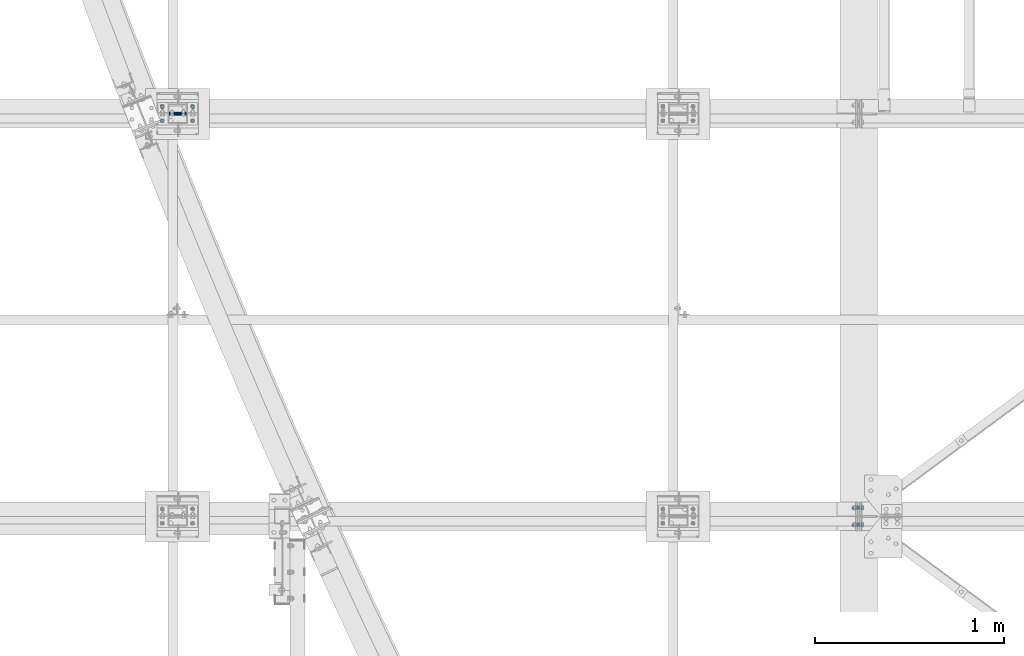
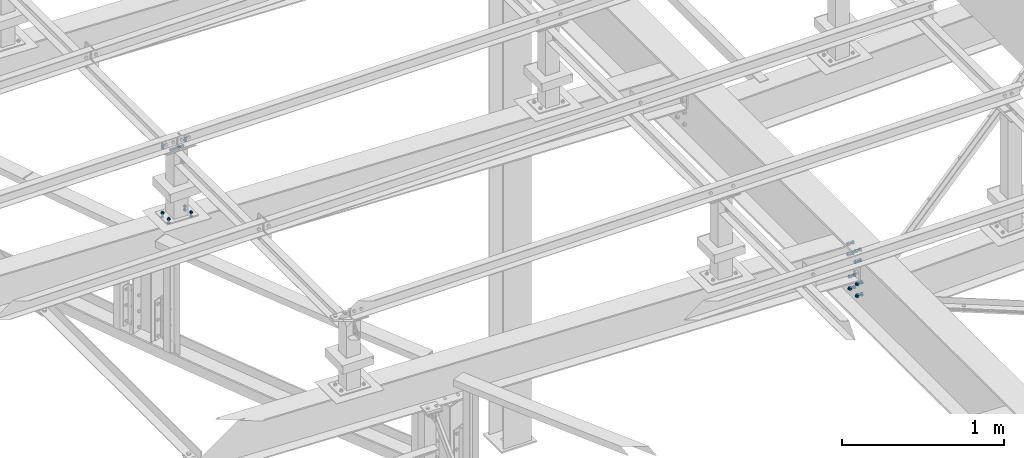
# One storey, part 52 of 3134: 7 mechanical fasteners, 3 elements without a shape of their own.
"""IFC2X3 building model written with IfcOpenShell, lengths in millimetres."""

import ifcopenshell
import ifcopenshell.guid

model = None  # the IFC model being written
_history = None  # IfcOwnerHistory: only IFC2X3 demands one
_inside = {}  # id of a spatial element -> (the spatial element, [elements in it])
_under = {}  # id of a project, library or spatial element -> (it, [spatial elements below it])
_declared = {}  # id of a project -> (the project, [libraries it declares])
_typed = {}  # id of a type object -> (the type object, [elements of that type])
_made_of = {}  # id of a material, layer set ... -> (it, [elements and type objects made of it])


def new_model(schema):
    """Start an empty IFC model of exactly this schema.

    Asked for "IFC4X3", IfcOpenShell would pick the latest addendum, in which some entities
    have other attributes; the version numbers below select the first issue.
    IFC2X3 requires an IfcOwnerHistory on every rooted entity: one is made here for all.
    """
    global model, _history
    if schema == "IFC4X3":
        model = ifcopenshell.file(schema_version=(4, 3, 0, 0))
    else:
        model = ifcopenshell.file(schema=schema)
    _inside.clear()
    _under.clear()
    _declared.clear()
    _typed.clear()
    _made_of.clear()
    _history = None
    if model.schema == "IFC2X3":
        org = make("IfcOrganization", Name="unknown")
        user = make(
            "IfcPersonAndOrganization",
            ThePerson=make("IfcPerson", FamilyName="unknown"),
            TheOrganization=org,
        )
        app = make(
            "IfcApplication",
            ApplicationDeveloper=org,
            Version="unknown",
            ApplicationFullName="unknown",
            ApplicationIdentifier="unknown",
        )
        _history = make(
            "IfcOwnerHistory",
            OwningUser=user,
            OwningApplication=app,
            ChangeAction="ADDED",
            CreationDate=0,
        )
    return model


def make(cls, **values):
    """One entity of the class cls with the attributes given. An attribute that is None is left unset."""
    return model.create_entity(
        cls, **{name: value for name, value in values.items() if value is not None}
    )


def rooted(cls, **values):
    """An entity with a GlobalId (a new one), such as an element, a storey or a relation."""
    return make(cls, GlobalId=ifcopenshell.guid.new(), OwnerHistory=_history, **values)


def si_unit(unit_type, name, prefix=None):
    """IfcSIUnit, for example si_unit("LENGTHUNIT", "METRE", prefix="MILLI")."""
    return make("IfcSIUnit", UnitType=unit_type, Prefix=prefix, Name=name)


def assignment(units):
    """IfcUnitAssignment: the units of a project."""
    return None if units is None else make("IfcUnitAssignment", Units=units)


def point(xyz):
    """IfcCartesianPoint."""
    return None if xyz is None else make("IfcCartesianPoint", Coordinates=xyz)


def direction(xyz):
    """IfcDirection."""
    return None if xyz is None else make("IfcDirection", DirectionRatios=xyz)


def frame(location, z_axis=None, x_axis=None):
    """IfcAxis2Placement3D, a coordinate frame: its origin and axes. An axis left out is left unset."""
    return make(
        "IfcAxis2Placement3D",
        Location=point(location),
        Axis=direction(z_axis),
        RefDirection=direction(x_axis),
    )


def origin_with_axes():
    """The frame at (0, 0, 0) with the z axis (0, 0, 1) and the x axis (1, 0, 0) written out."""
    return frame((0.0, 0.0, 0.0), z_axis=(0.0, 0.0, 1.0), x_axis=(1.0, 0.0, 0.0))


def place(relative_to, where):
    """IfcLocalPlacement: puts the frame where relative to a parent placement (None: the world)."""
    return make(
        "IfcLocalPlacement", PlacementRelTo=relative_to, RelativePlacement=where
    )


def context(
    kind, dimensions, precision=None, world=None, true_north=None, identifier=None
):
    """IfcGeometricRepresentationContext, for example the 3D "Model" context."""
    return make(
        "IfcGeometricRepresentationContext",
        ContextIdentifier=identifier,
        ContextType=kind,
        CoordinateSpaceDimension=dimensions,
        Precision=precision,
        WorldCoordinateSystem=world,
        TrueNorth=true_north,
    )


def subcontext(parent, identifier, kind, view, scale=None):
    """IfcGeometricRepresentationSubContext, for example "Body" below "Model"."""
    return make(
        "IfcGeometricRepresentationSubContext",
        ContextIdentifier=identifier,
        ContextType=kind,
        ParentContext=parent,
        TargetScale=scale,
        TargetView=view,
    )


def project(units=None, contexts=None):
    """IfcProject with its units and contexts."""
    return rooted(
        "IfcProject",
        Name="project",
        RepresentationContexts=contexts,
        UnitsInContext=assignment(units),
    )


def spatial(cls, under=None, at=None, **own):
    """A site, building, storey or space (cls), placed at a placement, below another one or the project."""
    s = rooted(cls, ObjectPlacement=at, **own)
    if under is not None:
        _under.setdefault(under.id(), (under, []))[1].append(s)
    return s


def faces_of(points, faces, orient=None, outer=None):
    """IfcFace entities. A face is a list of loops; a loop is a list of indices into points, from 0.

    orient and outer hold one flag for each loop. By default every Orientation is true, the
    first loop of a face is its IfcFaceOuterBound and the others are IfcFaceBound.
    """
    made = []
    for i, loops in enumerate(faces):
        bounds = []
        for j, loop in enumerate(loops):
            is_outer = j == 0 if outer is None else outer[i][j]
            bounds.append(
                make(
                    "IfcFaceOuterBound" if is_outer else "IfcFaceBound",
                    Bound=make("IfcPolyLoop", Polygon=[points[k] for k in loop]),
                    Orientation=True if orient is None else orient[i][j],
                )
            )
        made.append(make("IfcFace", Bounds=bounds))
    return made


def faceted_brep(points, faces, orient=None, outer=None, voids=None):
    """IfcFacetedBrep: a solid bounded by flat faces; with voids (closed shells), ...WithVoids."""
    shared = [point(p) for p in points]
    hull = make("IfcClosedShell", CfsFaces=faces_of(shared, faces, orient, outer))
    if voids is None:
        return make("IfcFacetedBrep", Outer=hull)
    return make(
        "IfcFacetedBrepWithVoids",
        Outer=hull,
        Voids=[
            make(cls, CfsFaces=faces_of(shared, fs, o, b)) for cls, fs, o, b in voids
        ],
    )


def shape(context_of_items, identifier, shape_type, items):
    """IfcShapeRepresentation: the items that make up one representation, for example the "Body"."""
    return make(
        "IfcShapeRepresentation",
        ContextOfItems=context_of_items,
        RepresentationIdentifier=identifier,
        RepresentationType=shape_type,
        Items=items,
    )


def source(mapping_origin, context_of_items, identifier, shape_type, items):
    """IfcRepresentationMap: a shape defined once, which mapped items show again and again."""
    return make(
        "IfcRepresentationMap",
        MappingOrigin=mapping_origin,
        MappedRepresentation=shape(context_of_items, identifier, shape_type, items),
    )


def transform(
    local_origin,
    x_axis=None,
    y_axis=None,
    z_axis=None,
    scale=None,
    scale2=None,
    scale3=None,
    uniform=True,
):
    """IfcCartesianTransformationOperator3D, or its non-uniform kind. x_axis, y_axis, z_axis: its Axis1, 2, 3."""
    if uniform:
        return make(
            "IfcCartesianTransformationOperator3D",
            Axis1=direction(x_axis),
            Axis2=direction(y_axis),
            LocalOrigin=point(local_origin),
            Scale=scale,
            Axis3=direction(z_axis),
        )
    return make(
        "IfcCartesianTransformationOperator3DnonUniform",
        Axis1=direction(x_axis),
        Axis2=direction(y_axis),
        LocalOrigin=point(local_origin),
        Scale=scale,
        Axis3=direction(z_axis),
        Scale2=scale2,
        Scale3=scale3,
    )


def mapped(mapping_source, mapping_target):
    """IfcMappedItem: shows the shape of a source again, moved by a transform."""
    return make(
        "IfcMappedItem", MappingSource=mapping_source, MappingTarget=mapping_target
    )


def material(Name=None, Category=None):
    """IfcMaterial."""
    return make("IfcMaterial", Name=Name, Category=Category)


def made_of(thing, what):
    """Note that an element or type object is made of a material, layer set ...; save() writes the relation."""
    if what is not None:
        _made_of.setdefault(what.id(), (what, []))[1].append(thing)
    return thing


def type_object(cls, material=None, **own):
    """A type object (cls), such as IfcWallType, which elements share."""
    return made_of(rooted(cls, **own), material)


def element(
    cls,
    number,
    at=None,
    inside=None,
    cuts=None,
    type_object=None,
    material=None,
    context=None,
    identifier="Body",
    shape_type=None,
    held_by="IfcProductDefinitionShape",
    body=None,
    shapes=None,
    **own,
):
    """One element of the class cls, such as IfcWall. Its Tag is "e" and its number.

    at: its placement. inside: the storey or other place that contains it. cuts: it is an
    opening in that element (IfcRelVoidsElement). A single representation is given by context,
    identifier, shape_type and body (its items); several are given by shapes. held_by: the class
    of the entity that holds the representations. save() writes the other relations.
    """
    e = rooted(cls, Tag="e%d" % number, ObjectPlacement=at, **own)
    if body is not None:
        shapes = [shape(context, identifier, shape_type, body)]
    if shapes is not None:
        e.Representation = make(held_by, Representations=shapes)
    if inside is not None:
        _inside.setdefault(inside.id(), (inside, []))[1].append(e)
    if cuts is not None:
        rooted(
            "IfcRelVoidsElement", RelatingBuildingElement=cuts, RelatedOpeningElement=e
        )
    if type_object is not None:
        _typed.setdefault(type_object.id(), (type_object, []))[1].append(e)
    return made_of(e, material)


def aggregate(whole, parts):
    """IfcRelAggregates: a whole, such as a stair, and the parts it consists of."""
    return rooted("IfcRelAggregates", RelatingObject=whole, RelatedObjects=parts)


def save(model, path):
    """Write the relations noted so far, then the file.

    IfcRelAggregates (storeys below a building ...), IfcRelContainedInSpatialStructure (elements
    in a storey), IfcRelDefinesByType, IfcRelAssociatesMaterial and IfcRelDeclares: one each for
    every whole, place, type object, material and project.
    """
    for whole, parts in _under.values():
        aggregate(whole, parts)
    for where, things in _inside.values():
        rooted(
            "IfcRelContainedInSpatialStructure",
            RelatedElements=things,
            RelatingStructure=where,
        )
    for kind, things in _typed.values():
        rooted("IfcRelDefinesByType", RelatedObjects=things, RelatingType=kind)
    for what, things in _made_of.values():
        rooted("IfcRelAssociatesMaterial", RelatedObjects=things, RelatingMaterial=what)
    for by, libraries in _declared.values():
        rooted("IfcRelDeclares", RelatingContext=by, RelatedDefinitions=libraries)
    model.write(path)


model = new_model("IFC2X3")

# Units and contexts
model_context = context("Model", 3, precision=1e-05, world=origin_with_axes())
body_context = subcontext(model_context, "Body", "Model", "MODEL_VIEW")
ifc_project = project(units=[si_unit("LENGTHUNIT", "METRE", prefix="MILLI"), si_unit("AREAUNIT", "SQUARE_METRE"), si_unit("VOLUMEUNIT", "CUBIC_METRE"), si_unit("MASSUNIT", "GRAM", prefix="KILO"), si_unit("TIMEUNIT", "SECOND"), si_unit("PLANEANGLEUNIT", "RADIAN"), si_unit("SOLIDANGLEUNIT", "STERADIAN"), si_unit("THERMODYNAMICTEMPERATUREUNIT", "DEGREE_CELSIUS"), si_unit("LUMINOUSINTENSITYUNIT", "LUMEN")], contexts=[model_context])

# Site, building, storey
site_placement = place(None, origin_with_axes())
site = spatial("IfcSite", under=ifc_project, at=site_placement, CompositionType="ELEMENT")
building_placement = place(site_placement, origin_with_axes())
building = spatial("IfcBuilding", under=site, at=building_placement, Name="Undefined", CompositionType="ELEMENT")
storey_placement = place(building_placement, origin_with_axes())
storey = spatial("IfcBuildingStorey", under=building, at=storey_placement, Name="Undefined", CompositionType="ELEMENT", Elevation=0.0)

# Assembly, mechanical fastener
assembly_1_placement = place(storey_placement, origin_with_axes())
assembly_1 = element("IfcElementAssembly", 1, at=assembly_1_placement, inside=storey, AssemblyPlace="NOTDEFINED", PredefinedType="RIGID_FRAME")
ifc_material = material(Name="8.8")
mechanical_fastener_type = type_object("IfcMechanicalFastenerType", Name="Bolt assembly")
shared_shape_1 = source(origin_with_axes(), body_context, "Body", "Brep", [
    faceted_brep([(10.9696551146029, -14.0, 0.0), (5.48482755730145, -14.0, 9.5), (-5.48482755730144, -14.0, 9.5), (-10.9696551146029, -14.0, 1.34339530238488e-15), (-5.48482755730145, -14.0, -9.5), (5.48482755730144, -14.0, -9.50000000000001), (5.48482755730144, -6.0, -9.50000000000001), (-5.48482755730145, -6.0, -9.5), (-10.9696551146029, -6.0, 1.34339530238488e-15), (-5.48482755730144, -6.0, 9.5), (5.48482755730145, -6.0, 9.5), (10.9696551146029, -6.0, 0.0), (6.0, -6.0, 0.0), (5.19615242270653, -6.0, 3.00000000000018), (2.99999999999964, -6.0, 5.19615242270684), (-6.21801588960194e-13, -6.0, 6.0), (-3.00000000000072, -6.0, 5.19615242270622), (-5.19615242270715, -6.0, 2.9999999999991), (-6.0, -6.0, -1.24360317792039e-12), (-5.19615242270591, -6.0, -3.00000000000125), (-2.99999999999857, -6.0, -5.19615242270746), (1.85874342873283e-12, -6.0, -6.0), (3.00000000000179, -6.0, -5.1961524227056), (5.19615242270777, -6.0, -2.99999999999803), (5.19615242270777, 24.0, -2.99999999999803), (3.00000000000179, 24.0, -5.1961524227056), (1.85874342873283e-12, 24.0, -6.0), (-2.99999999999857, 24.0, -5.19615242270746), (-5.19615242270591, 24.0, -3.00000000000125), (-6.0, 24.0, -1.24360317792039e-12), (-5.19615242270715, 24.0, 2.9999999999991), (-3.00000000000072, 24.0, 5.19615242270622), (-6.21801588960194e-13, 24.0, 6.0), (2.99999999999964, 24.0, 5.19615242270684), (5.19615242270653, 24.0, 3.00000000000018), (6.0, 24.0, 0.0), (10.9696551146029, 6.00000000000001, 0.0), (5.48482755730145, 6.00000000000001, 9.5), (-5.48482755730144, 6.00000000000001, 9.5), (-10.9696551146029, 6.00000000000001, 1.34339530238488e-15), (-5.48482755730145, 6.00000000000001, -9.5), (5.48482755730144, 6.00000000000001, -9.50000000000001), (5.48482755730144, 16.0, -9.50000000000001), (-5.48482755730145, 16.0, -9.5), (-10.9696551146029, 16.0, 1.34339530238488e-15), (-5.48482755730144, 16.0, 9.5), (5.48482755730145, 16.0, 9.5), (10.9696551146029, 16.0, 0.0)], [[[0, 1, 2, 3, 4, 5]], [[6, 7, 8, 9, 10, 11]], [[0, 11, 10, 1]], [[1, 10, 9, 2]], [[2, 9, 8, 3]], [[3, 8, 7, 4]], [[4, 7, 6, 5]], [[5, 6, 11, 0]], [[12, 13, 14, 15, 16, 17, 18, 19, 20, 21, 22, 23]], [[24, 25, 26, 27, 28, 29, 30, 31, 32, 33, 34, 35]], [[12, 35, 34, 13]], [[13, 34, 33, 14]], [[14, 33, 32, 15]], [[15, 32, 31, 16]], [[16, 31, 30, 17]], [[17, 30, 29, 18]], [[18, 29, 28, 19]], [[19, 28, 27, 20]], [[20, 27, 26, 21]], [[21, 26, 25, 22]], [[22, 25, 24, 23]], [[23, 24, 35, 12]], [[36, 37, 38, 39, 40, 41]], [[42, 43, 44, 45, 46, 47]], [[36, 47, 46, 37]], [[37, 46, 45, 38]], [[38, 45, 44, 39]], [[39, 44, 43, 40]], [[40, 43, 42, 41]], [[41, 42, 47, 36]]]),
    faceted_brep([(7.0, -0.1, 0.0), (6.06217782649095, -0.1, 3.50000000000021), (3.49999999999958, -0.1, 6.06217782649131), (-7.25435187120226e-13, -0.1, 7.0), (-3.50000000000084, -0.1, 6.06217782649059), (-6.06217782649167, -0.1, 3.49999999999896), (-7.0, -0.1, -1.45087037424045e-12), (-6.06217782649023, -0.1, -3.50000000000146), (-3.49999999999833, -0.1, -6.06217782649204), (2.1685340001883e-12, -0.1, -7.0), (3.50000000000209, -0.1, -6.06217782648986), (6.0621778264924, -0.1, -3.4999999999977), (6.0621778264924, 6.00000000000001, -3.4999999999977), (3.50000000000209, 6.00000000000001, -6.06217782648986), (2.1685340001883e-12, 6.00000000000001, -7.0), (-3.49999999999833, 6.00000000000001, -6.06217782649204), (-6.06217782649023, 6.00000000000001, -3.50000000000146), (-7.0, 6.00000000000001, -1.45087037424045e-12), (-6.06217782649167, 6.00000000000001, 3.49999999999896), (-3.50000000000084, 6.00000000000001, 6.06217782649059), (-7.25435187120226e-13, 6.00000000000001, 7.0), (3.49999999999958, 6.00000000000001, 6.06217782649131), (6.06217782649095, 6.00000000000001, 3.50000000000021), (7.0, 6.00000000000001, 0.0), (7.0, -5.9, 0.0), (6.06217782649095, -5.9, 3.50000000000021), (3.49999999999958, -5.9, 6.06217782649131), (-7.25435187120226e-13, -5.9, 7.0), (-3.50000000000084, -5.9, 6.06217782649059), (-6.06217782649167, -5.9, 3.49999999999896), (-7.0, -5.9, -1.45087037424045e-12), (-6.06217782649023, -5.9, -3.50000000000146), (-3.49999999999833, -5.9, -6.06217782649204), (2.1685340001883e-12, -5.9, -7.0), (3.50000000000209, -5.9, -6.06217782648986), (6.0621778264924, -5.9, -3.4999999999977), (6.0621778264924, 0.0999999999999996, -3.4999999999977), (3.50000000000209, 0.0999999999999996, -6.06217782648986), (2.1685340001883e-12, 0.0999999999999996, -7.0), (-3.49999999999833, 0.0999999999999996, -6.06217782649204), (-6.06217782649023, 0.0999999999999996, -3.50000000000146), (-7.0, 0.0999999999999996, -1.45087037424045e-12), (-6.06217782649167, 0.0999999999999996, 3.49999999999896), (-3.50000000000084, 0.0999999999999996, 6.06217782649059), (-7.25435187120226e-13, 0.0999999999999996, 7.0), (3.49999999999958, 0.0999999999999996, 6.06217782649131), (6.06217782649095, 0.0999999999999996, 3.50000000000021), (7.0, 0.0999999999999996, 0.0)], [[[0, 1, 2, 3, 4, 5, 6, 7, 8, 9, 10, 11]], [[12, 13, 14, 15, 16, 17, 18, 19, 20, 21, 22, 23]], [[0, 23, 22, 1]], [[1, 22, 21, 2]], [[2, 21, 20, 3]], [[3, 20, 19, 4]], [[4, 19, 18, 5]], [[5, 18, 17, 6]], [[6, 17, 16, 7]], [[7, 16, 15, 8]], [[8, 15, 14, 9]], [[9, 14, 13, 10]], [[10, 13, 12, 11]], [[11, 12, 23, 0]], [[24, 25, 26, 27, 28, 29, 30, 31, 32, 33, 34, 35]], [[36, 37, 38, 39, 40, 41, 42, 43, 44, 45, 46, 47]], [[24, 47, 46, 25]], [[25, 46, 45, 26]], [[26, 45, 44, 27]], [[27, 44, 43, 28]], [[28, 43, 42, 29]], [[29, 42, 41, 30]], [[30, 41, 40, 31]], [[31, 40, 39, 32]], [[32, 39, 38, 33]], [[33, 38, 37, 34]], [[34, 37, 36, 35]], [[35, 36, 47, 24]]]),
])
mechanical_fastener_1_placement = place(assembly_1_placement, frame((5691.67, 17355.0, 4365.0), z_axis=(1.0, 0.0, 0.0), x_axis=(0.0, -1.0, 0.0)))
mechanical_fastener_1 = element("IfcMechanicalFastener", 2, at=mechanical_fastener_1_placement, type_object=mechanical_fastener_type, material=ifc_material, Name="Bolt assembly", NominalDiameter=12.0, NominalLength=30.0, context=body_context, shape_type="MappedRepresentation", body=[
    mapped(shared_shape_1, transform((0.0, -5.32963895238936e-10, -79.9999999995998))),
    mapped(shared_shape_1, transform((0.0, 5.3114490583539e-10, 79.9999999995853))),
])
aggregate(assembly_1, [mechanical_fastener_1])

# Assembly, mechanical fasteners
assembly_2_placement = place(storey_placement, origin_with_axes())
assembly_2 = element("IfcElementAssembly", 3, at=assembly_2_placement, inside=storey, Name="IPE500", AssemblyPlace="NOTDEFINED", PredefinedType="RIGID_FRAME")
shared_shape_2 = source(origin_with_axes(), body_context, "Body", "Brep", [
    faceted_brep([(13.856406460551, 0.0, 0.0), (6.92820323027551, 0.0, 12.0), (-6.92820323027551, 0.0, 12.0), (-13.856406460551, 0.0, 1.69692038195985e-15), (-6.92820323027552, 0.0, -12.0), (6.9282032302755, 0.0, -12.0), (6.9282032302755, 9.99999995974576, -12.0), (-6.92820323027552, 9.99999995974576, -12.0), (-13.856406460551, 9.99999995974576, 1.69692038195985e-15), (-6.92820323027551, 9.99999995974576, 12.0), (6.92820323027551, 9.99999995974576, 12.0), (13.856406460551, 9.99999995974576, 0.0), (8.0, 9.99999995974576, 0.0), (6.92820323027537, 9.99999995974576, 4.00000000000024), (3.99999999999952, 9.99999995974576, 6.92820323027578), (-8.29068785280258e-13, 9.99999995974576, 8.0), (-4.00000000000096, 9.99999995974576, 6.92820323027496), (-6.9282032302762, 9.99999995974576, 3.99999999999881), (-8.0, 9.99999995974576, -1.65813757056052e-12), (-6.92820323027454, 9.99999995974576, -4.00000000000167), (-3.99999999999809, 9.99999995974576, -6.92820323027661), (2.47832457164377e-12, 9.99999995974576, -8.0), (4.00000000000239, 9.99999995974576, -6.92820323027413), (6.92820323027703, 9.99999995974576, -3.99999999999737), (6.92820323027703, 49.9999999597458, -3.99999999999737), (4.00000000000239, 49.9999999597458, -6.92820323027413), (2.47832457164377e-12, 49.9999999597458, -8.0), (-3.99999999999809, 49.9999999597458, -6.92820323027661), (-6.92820323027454, 49.9999999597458, -4.00000000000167), (-8.0, 49.9999999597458, -1.65813757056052e-12), (-6.9282032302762, 49.9999999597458, 3.99999999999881), (-4.00000000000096, 49.9999999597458, 6.92820323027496), (-8.29068785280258e-13, 49.9999999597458, 8.0), (3.99999999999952, 49.9999999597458, 6.92820323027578), (6.92820323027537, 49.9999999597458, 4.00000000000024), (8.0, 49.9999999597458, 0.0), (13.856406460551, 30.1999997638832, 0.0), (6.92820323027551, 30.1999997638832, 12.0), (-6.92820323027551, 30.1999997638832, 12.0), (-13.856406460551, 30.1999997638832, 1.69692038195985e-15), (-6.92820323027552, 30.1999997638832, -12.0), (6.9282032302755, 30.1999997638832, -12.0), (6.9282032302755, 43.1999997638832, -12.0), (-6.92820323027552, 43.1999997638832, -12.0), (-13.856406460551, 43.1999997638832, 1.69692038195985e-15), (-6.92820323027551, 43.1999997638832, 12.0), (6.92820323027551, 43.1999997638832, 12.0), (13.856406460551, 43.1999997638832, 0.0)], [[[0, 1, 2, 3, 4, 5]], [[6, 7, 8, 9, 10, 11]], [[0, 11, 10, 1]], [[1, 10, 9, 2]], [[2, 9, 8, 3]], [[3, 8, 7, 4]], [[4, 7, 6, 5]], [[5, 6, 11, 0]], [[12, 13, 14, 15, 16, 17, 18, 19, 20, 21, 22, 23]], [[24, 25, 26, 27, 28, 29, 30, 31, 32, 33, 34, 35]], [[12, 35, 34, 13]], [[13, 34, 33, 14]], [[14, 33, 32, 15]], [[15, 32, 31, 16]], [[16, 31, 30, 17]], [[17, 30, 29, 18]], [[18, 29, 28, 19]], [[19, 28, 27, 20]], [[20, 27, 26, 21]], [[21, 26, 25, 22]], [[22, 25, 24, 23]], [[23, 24, 35, 12]], [[36, 37, 38, 39, 40, 41]], [[42, 43, 44, 45, 46, 47]], [[36, 47, 46, 37]], [[37, 46, 45, 38]], [[38, 45, 44, 39]], [[39, 44, 43, 40]], [[40, 43, 42, 41]], [[41, 42, 47, 36]]]),
    faceted_brep([(9.0, 20.0999997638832, 0.0), (7.79422863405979, 20.0999997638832, 4.50000000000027), (4.49999999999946, 20.0999997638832, 7.79422863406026), (-9.3270238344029e-13, 20.0999997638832, 9.0), (-4.50000000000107, 20.0999997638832, 7.79422863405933), (-7.79422863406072, 20.0999997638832, 4.49999999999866), (-9.0, 20.0999997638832, -1.86540476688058e-12), (-7.79422863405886, 20.0999997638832, -4.50000000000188), (-4.49999999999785, 20.0999997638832, -7.79422863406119), (2.78811514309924e-12, 20.0999997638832, -9.0), (4.50000000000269, 20.0999997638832, -7.7942286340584), (7.79422863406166, 20.0999997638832, -4.49999999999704), (7.79422863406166, 30.1999997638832, -4.49999999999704), (4.50000000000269, 30.1999997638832, -7.7942286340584), (2.78811514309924e-12, 30.1999997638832, -9.0), (-4.49999999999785, 30.1999997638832, -7.79422863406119), (-7.79422863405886, 30.1999997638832, -4.50000000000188), (-9.0, 30.1999997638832, -1.86540476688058e-12), (-7.79422863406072, 30.1999997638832, 4.49999999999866), (-4.50000000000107, 30.1999997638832, 7.79422863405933), (-9.3270238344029e-13, 30.1999997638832, 9.0), (4.49999999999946, 30.1999997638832, 7.79422863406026), (7.79422863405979, 30.1999997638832, 4.50000000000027), (9.0, 30.1999997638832, 0.0), (9.0, 10.1000023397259, 0.0), (7.79422863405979, 10.1000023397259, 4.50000000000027), (4.49999999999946, 10.1000023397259, 7.79422863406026), (-9.3270238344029e-13, 10.1000023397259, 9.0), (-4.50000000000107, 10.1000023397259, 7.79422863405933), (-7.79422863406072, 10.1000023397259, 4.49999999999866), (-9.0, 10.1000023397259, -1.86540476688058e-12), (-7.79422863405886, 10.1000023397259, -4.50000000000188), (-4.49999999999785, 10.1000023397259, -7.79422863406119), (2.78811514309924e-12, 10.1000023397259, -9.0), (4.50000000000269, 10.1000023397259, -7.7942286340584), (7.79422863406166, 10.1000023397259, -4.49999999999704), (7.79422863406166, 20.2999997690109, -4.49999999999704), (4.50000000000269, 20.2999997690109, -7.7942286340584), (2.78811514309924e-12, 20.2999997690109, -9.0), (-4.49999999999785, 20.2999997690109, -7.79422863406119), (-7.79422863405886, 20.2999997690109, -4.50000000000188), (-9.0, 20.2999997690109, -1.86540476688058e-12), (-7.79422863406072, 20.2999997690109, 4.49999999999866), (-4.50000000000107, 20.2999997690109, 7.79422863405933), (-9.3270238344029e-13, 20.2999997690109, 9.0), (4.49999999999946, 20.2999997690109, 7.79422863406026), (7.79422863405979, 20.2999997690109, 4.50000000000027), (9.0, 20.2999997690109, 0.0)], [[[0, 1, 2, 3, 4, 5, 6, 7, 8, 9, 10, 11]], [[12, 13, 14, 15, 16, 17, 18, 19, 20, 21, 22, 23]], [[0, 23, 22, 1]], [[1, 22, 21, 2]], [[2, 21, 20, 3]], [[3, 20, 19, 4]], [[4, 19, 18, 5]], [[5, 18, 17, 6]], [[6, 17, 16, 7]], [[7, 16, 15, 8]], [[8, 15, 14, 9]], [[9, 14, 13, 10]], [[10, 13, 12, 11]], [[11, 12, 23, 0]], [[24, 25, 26, 27, 28, 29, 30, 31, 32, 33, 34, 35]], [[36, 37, 38, 39, 40, 41, 42, 43, 44, 45, 46, 47]], [[24, 47, 46, 25]], [[25, 46, 45, 26]], [[26, 45, 44, 27]], [[27, 44, 43, 28]], [[28, 43, 42, 29]], [[29, 42, 41, 30]], [[30, 41, 40, 31]], [[31, 40, 39, 32]], [[32, 39, 38, 33]], [[33, 38, 37, 34]], [[34, 37, 36, 35]], [[35, 36, 47, 24]]]),
])
mechanical_fastener_2_placement = place(assembly_2_placement, frame((9310.09999986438, 15145.0, 3631.67000001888), z_axis=(0.0, 1.0, 0.0), x_axis=(0.0, 0.0, -1.0)))
mechanical_fastener_2 = element("IfcMechanicalFastener", 4, at=mechanical_fastener_2_placement, type_object=mechanical_fastener_type, material=ifc_material, Name="Bolt assembly", NominalDiameter=16.0, NominalLength=40.0, context=body_context, shape_type="MappedRepresentation", body=[
    mapped(shared_shape_2, transform((0.0, 0.0, 0.0))),
    mapped(shared_shape_2, transform((80.0, 0.0, 0.0))),
])
mechanical_fastener_3_placement = place(assembly_2_placement, frame((9310.09999986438, 15235.0, 3631.67000001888), z_axis=(0.0, 1.0, 0.0), x_axis=(0.0, 0.0, -1.0)))
mechanical_fastener_3 = element("IfcMechanicalFastener", 5, at=mechanical_fastener_3_placement, type_object=mechanical_fastener_type, material=ifc_material, Name="Bolt assembly", NominalDiameter=16.0, NominalLength=40.0, context=body_context, shape_type="MappedRepresentation", body=[
    mapped(shared_shape_2, transform((0.0, 0.0, 0.0))),
    mapped(shared_shape_2, transform((80.0, 0.0, 0.0))),
])
shared_shape_3 = source(origin_with_axes(), body_context, "Body", "Brep", [
    faceted_brep([(13.856406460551, -10.0, 0.0), (6.92820323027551, -10.0, 12.0), (-6.92820323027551, -10.0, 12.0), (-13.856406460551, -10.0, 1.69692038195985e-15), (-6.92820323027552, -10.0, -12.0), (6.9282032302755, -10.0, -12.0), (6.9282032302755, 0.0, -12.0), (-6.92820323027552, 0.0, -12.0), (-13.856406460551, 0.0, 1.69692038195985e-15), (-6.92820323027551, 0.0, 12.0), (6.92820323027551, 0.0, 12.0), (13.856406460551, 0.0, 0.0), (8.0, 0.0, 0.0), (6.92820323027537, 0.0, 4.00000000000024), (3.99999999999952, 0.0, 6.92820323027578), (-8.29068785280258e-13, 0.0, 8.0), (-4.00000000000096, 0.0, 6.92820323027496), (-6.9282032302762, 0.0, 3.99999999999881), (-8.0, 0.0, -1.65813757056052e-12), (-6.92820323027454, 0.0, -4.00000000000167), (-3.99999999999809, 0.0, -6.92820323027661), (2.47832457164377e-12, 0.0, -8.0), (4.00000000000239, 0.0, -6.92820323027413), (6.92820323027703, 0.0, -3.99999999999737), (6.92820323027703, 40.0, -3.99999999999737), (4.00000000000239, 40.0, -6.92820323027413), (2.47832457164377e-12, 40.0, -8.0), (-3.99999999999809, 40.0, -6.92820323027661), (-6.92820323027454, 40.0, -4.00000000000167), (-8.0, 40.0, -1.65813757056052e-12), (-6.9282032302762, 40.0, 3.99999999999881), (-4.00000000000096, 40.0, 6.92820323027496), (-8.29068785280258e-13, 40.0, 8.0), (3.99999999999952, 40.0, 6.92820323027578), (6.92820323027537, 40.0, 4.00000000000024), (8.0, 40.0, 0.0), (13.856406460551, 20.1999997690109, 0.0), (6.92820323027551, 20.1999997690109, 12.0), (-6.92820323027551, 20.1999997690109, 12.0), (-13.856406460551, 20.1999997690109, 1.69692038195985e-15), (-6.92820323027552, 20.1999997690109, -12.0), (6.9282032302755, 20.1999997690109, -12.0), (6.9282032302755, 33.1999997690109, -12.0), (-6.92820323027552, 33.1999997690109, -12.0), (-13.856406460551, 33.1999997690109, 1.69692038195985e-15), (-6.92820323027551, 33.1999997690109, 12.0), (6.92820323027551, 33.1999997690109, 12.0), (13.856406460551, 33.1999997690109, 0.0)], [[[0, 1, 2, 3, 4, 5]], [[6, 7, 8, 9, 10, 11]], [[0, 11, 10, 1]], [[1, 10, 9, 2]], [[2, 9, 8, 3]], [[3, 8, 7, 4]], [[4, 7, 6, 5]], [[5, 6, 11, 0]], [[12, 13, 14, 15, 16, 17, 18, 19, 20, 21, 22, 23]], [[24, 25, 26, 27, 28, 29, 30, 31, 32, 33, 34, 35]], [[12, 35, 34, 13]], [[13, 34, 33, 14]], [[14, 33, 32, 15]], [[15, 32, 31, 16]], [[16, 31, 30, 17]], [[17, 30, 29, 18]], [[18, 29, 28, 19]], [[19, 28, 27, 20]], [[20, 27, 26, 21]], [[21, 26, 25, 22]], [[22, 25, 24, 23]], [[23, 24, 35, 12]], [[36, 37, 38, 39, 40, 41]], [[42, 43, 44, 45, 46, 47]], [[36, 47, 46, 37]], [[37, 46, 45, 38]], [[38, 45, 44, 39]], [[39, 44, 43, 40]], [[40, 43, 42, 41]], [[41, 42, 47, 36]]]),
    faceted_brep([(9.0, 0.100000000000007, 0.0), (7.79422863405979, 0.100000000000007, 4.50000000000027), (4.49999999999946, 0.100000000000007, 7.79422863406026), (-9.3270238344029e-13, 0.100000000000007, 9.0), (-4.50000000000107, 0.100000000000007, 7.79422863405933), (-7.79422863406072, 0.100000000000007, 4.49999999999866), (-9.0, 0.100000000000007, -1.86540476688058e-12), (-7.79422863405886, 0.100000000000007, -4.50000000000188), (-4.49999999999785, 0.100000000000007, -7.79422863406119), (2.78811514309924e-12, 0.100000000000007, -9.0), (4.50000000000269, 0.100000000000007, -7.7942286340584), (7.79422863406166, 0.100000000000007, -4.49999999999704), (7.79422863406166, 10.1000023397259, -4.49999999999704), (4.50000000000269, 10.1000023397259, -7.7942286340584), (2.78811514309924e-12, 10.1000023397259, -9.0), (-4.49999999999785, 10.1000023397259, -7.79422863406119), (-7.79422863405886, 10.1000023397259, -4.50000000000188), (-9.0, 10.1000023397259, -1.86540476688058e-12), (-7.79422863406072, 10.1000023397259, 4.49999999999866), (-4.50000000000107, 10.1000023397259, 7.79422863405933), (-9.3270238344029e-13, 10.1000023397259, 9.0), (4.49999999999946, 10.1000023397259, 7.79422863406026), (7.79422863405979, 10.1000023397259, 4.50000000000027), (9.0, 10.1000023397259, 0.0), (9.0, 9.89999999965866, 0.0), (7.79422863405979, 9.89999999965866, 4.50000000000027), (4.49999999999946, 9.89999999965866, 7.79422863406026), (-9.3270238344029e-13, 9.89999999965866, 9.0), (-4.50000000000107, 9.89999999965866, 7.79422863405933), (-7.79422863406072, 9.89999999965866, 4.49999999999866), (-9.0, 9.89999999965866, -1.86540476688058e-12), (-7.79422863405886, 9.89999999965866, -4.50000000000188), (-4.49999999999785, 9.89999999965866, -7.79422863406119), (2.78811514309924e-12, 9.89999999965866, -9.0), (4.50000000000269, 9.89999999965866, -7.7942286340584), (7.79422863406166, 9.89999999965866, -4.49999999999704), (7.79422863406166, 20.1999997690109, -4.49999999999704), (4.50000000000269, 20.1999997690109, -7.7942286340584), (2.78811514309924e-12, 20.1999997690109, -9.0), (-4.49999999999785, 20.1999997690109, -7.79422863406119), (-7.79422863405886, 20.1999997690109, -4.50000000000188), (-9.0, 20.1999997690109, -1.86540476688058e-12), (-7.79422863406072, 20.1999997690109, 4.49999999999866), (-4.50000000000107, 20.1999997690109, 7.79422863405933), (-9.3270238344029e-13, 20.1999997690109, 9.0), (4.49999999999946, 20.1999997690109, 7.79422863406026), (7.79422863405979, 20.1999997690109, 4.50000000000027), (9.0, 20.1999997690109, 0.0)], [[[0, 1, 2, 3, 4, 5, 6, 7, 8, 9, 10, 11]], [[12, 13, 14, 15, 16, 17, 18, 19, 20, 21, 22, 23]], [[0, 23, 22, 1]], [[1, 22, 21, 2]], [[2, 21, 20, 3]], [[3, 20, 19, 4]], [[4, 19, 18, 5]], [[5, 18, 17, 6]], [[6, 17, 16, 7]], [[7, 16, 15, 8]], [[8, 15, 14, 9]], [[9, 14, 13, 10]], [[10, 13, 12, 11]], [[11, 12, 23, 0]], [[24, 25, 26, 27, 28, 29, 30, 31, 32, 33, 34, 35]], [[36, 37, 38, 39, 40, 41, 42, 43, 44, 45, 46, 47]], [[24, 47, 46, 25]], [[25, 46, 45, 26]], [[26, 45, 44, 27]], [[27, 44, 43, 28]], [[28, 43, 42, 29]], [[29, 42, 41, 30]], [[30, 41, 40, 31]], [[31, 40, 39, 32]], [[32, 39, 38, 33]], [[33, 38, 37, 34]], [[34, 37, 36, 35]], [[35, 36, 47, 24]]]),
])
mechanical_fastener_4_placement = place(assembly_2_placement, frame((9310.09999986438, 15145.0, 3381.67000001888), z_axis=(0.0, 1.0, 0.0), x_axis=(0.0, 0.0, -1.0)))
mechanical_fastener_4 = element("IfcMechanicalFastener", 6, at=mechanical_fastener_4_placement, type_object=mechanical_fastener_type, material=ifc_material, Name="Bolt assembly", NominalDiameter=16.0, NominalLength=40.0, context=body_context, shape_type="MappedRepresentation", body=[
    mapped(shared_shape_3, transform((0.0, 0.0, 0.0))),
    mapped(shared_shape_3, transform((90.0, 0.0, 0.0))),
])
mechanical_fastener_5_placement = place(assembly_2_placement, frame((9310.09999986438, 15235.0, 3381.67000001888), z_axis=(0.0, 1.0, 0.0), x_axis=(0.0, 0.0, -1.0)))
mechanical_fastener_5 = element("IfcMechanicalFastener", 7, at=mechanical_fastener_5_placement, type_object=mechanical_fastener_type, material=ifc_material, Name="Bolt assembly", NominalDiameter=16.0, NominalLength=40.0, context=body_context, shape_type="MappedRepresentation", body=[
    mapped(shared_shape_3, transform((0.0, 0.0, 0.0))),
    mapped(shared_shape_3, transform((90.0, 0.0, 0.0))),
])
aggregate(assembly_2, [mechanical_fastener_2, mechanical_fastener_3, mechanical_fastener_4, mechanical_fastener_5])

assembly_3_placement = place(storey_placement, origin_with_axes())
assembly_3 = element("IfcElementAssembly", 8, at=assembly_3_placement, inside=storey, AssemblyPlace="NOTDEFINED", PredefinedType="RIGID_FRAME")
shared_shape_4 = source(origin_with_axes(), body_context, "Body", "Brep", [
    faceted_brep([(10.9696551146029, -4.18280906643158, 0.0), (5.48482755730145, -4.18280906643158, 9.5), (-5.48482755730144, -4.18280906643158, 9.5), (-10.9696551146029, -4.18280906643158, 1.34339530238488e-15), (-5.48482755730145, -4.18280906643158, -9.5), (5.48482755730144, -4.18280906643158, -9.50000000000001), (5.48482755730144, 3.81719093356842, -9.50000000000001), (-5.48482755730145, 3.81719093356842, -9.5), (-10.9696551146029, 3.81719093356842, 1.34339530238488e-15), (-5.48482755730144, 3.81719093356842, 9.5), (5.48482755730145, 3.81719093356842, 9.5), (10.9696551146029, 3.81719093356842, 0.0), (6.0, 3.81719093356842, 0.0), (5.19615242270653, 3.81719093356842, 3.00000000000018), (2.99999999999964, 3.81719093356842, 5.19615242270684), (-6.21801588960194e-13, 3.81719093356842, 6.0), (-3.00000000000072, 3.81719093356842, 5.19615242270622), (-5.19615242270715, 3.81719093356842, 2.9999999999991), (-6.0, 3.81719093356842, -1.24360317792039e-12), (-5.19615242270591, 3.81719093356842, -3.00000000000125), (-2.99999999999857, 3.81719093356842, -5.19615242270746), (1.85874342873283e-12, 3.81719093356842, -6.0), (3.00000000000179, 3.81719093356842, -5.1961524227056), (5.19615242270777, 3.81719093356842, -2.99999999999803), (5.19615242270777, 38.8171909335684, -2.99999999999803), (3.00000000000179, 38.8171909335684, -5.1961524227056), (1.85874342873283e-12, 38.8171909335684, -6.0), (-2.99999999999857, 38.8171909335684, -5.19615242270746), (-5.19615242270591, 38.8171909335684, -3.00000000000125), (-6.0, 38.8171909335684, -1.24360317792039e-12), (-5.19615242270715, 38.8171909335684, 2.9999999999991), (-3.00000000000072, 38.8171909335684, 5.19615242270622), (-6.21801588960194e-13, 38.8171909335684, 6.0), (2.99999999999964, 38.8171909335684, 5.19615242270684), (5.19615242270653, 38.8171909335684, 3.00000000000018), (6.0, 38.8171909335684, 0.0), (10.9696551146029, 23.0139082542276, 0.0), (5.48482755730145, 23.0139082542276, 9.5), (-5.48482755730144, 23.0139082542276, 9.5), (-10.9696551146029, 23.0139082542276, 1.34339530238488e-15), (-5.48482755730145, 23.0139082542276, -9.5), (5.48482755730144, 23.0139082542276, -9.50000000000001), (5.48482755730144, 33.0139082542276, -9.50000000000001), (-5.48482755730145, 33.0139082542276, -9.5), (-10.9696551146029, 33.0139082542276, 1.34339530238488e-15), (-5.48482755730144, 33.0139082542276, 9.5), (5.48482755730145, 33.0139082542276, 9.5), (10.9696551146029, 33.0139082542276, 0.0)], [[[0, 1, 2, 3, 4, 5]], [[6, 7, 8, 9, 10, 11]], [[0, 11, 10, 1]], [[1, 10, 9, 2]], [[2, 9, 8, 3]], [[3, 8, 7, 4]], [[4, 7, 6, 5]], [[5, 6, 11, 0]], [[12, 13, 14, 15, 16, 17, 18, 19, 20, 21, 22, 23]], [[24, 25, 26, 27, 28, 29, 30, 31, 32, 33, 34, 35]], [[12, 35, 34, 13]], [[13, 34, 33, 14]], [[14, 33, 32, 15]], [[15, 32, 31, 16]], [[16, 31, 30, 17]], [[17, 30, 29, 18]], [[18, 29, 28, 19]], [[19, 28, 27, 20]], [[20, 27, 26, 21]], [[21, 26, 25, 22]], [[22, 25, 24, 23]], [[23, 24, 35, 12]], [[36, 37, 38, 39, 40, 41]], [[42, 43, 44, 45, 46, 47]], [[36, 47, 46, 37]], [[37, 46, 45, 38]], [[38, 45, 44, 39]], [[39, 44, 43, 40]], [[40, 43, 42, 41]], [[41, 42, 47, 36]]]),
    faceted_brep([(7.0, 3.91719093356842, 0.0), (6.06217782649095, 3.91719093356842, 3.50000000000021), (3.49999999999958, 3.91719093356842, 6.06217782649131), (-7.25435187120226e-13, 3.91719093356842, 7.0), (-3.50000000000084, 3.91719093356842, 6.06217782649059), (-6.06217782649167, 3.91719093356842, 3.49999999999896), (-7.0, 3.91719093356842, -1.45087037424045e-12), (-6.06217782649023, 3.91719093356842, -3.50000000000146), (-3.49999999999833, 3.91719093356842, -6.06217782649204), (2.1685340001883e-12, 3.91719093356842, -7.0), (3.50000000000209, 3.91719093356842, -6.06217782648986), (6.0621778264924, 3.91719093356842, -3.4999999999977), (6.0621778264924, 13.1171907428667, -3.4999999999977), (3.50000000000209, 13.1171907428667, -6.06217782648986), (2.1685340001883e-12, 13.1171907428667, -7.0), (-3.49999999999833, 13.1171907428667, -6.06217782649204), (-6.06217782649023, 13.1171907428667, -3.50000000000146), (-7.0, 13.1171907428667, -1.45087037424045e-12), (-6.06217782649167, 13.1171907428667, 3.49999999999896), (-3.50000000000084, 13.1171907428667, 6.06217782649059), (-7.25435187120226e-13, 13.1171907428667, 7.0), (3.49999999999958, 13.1171907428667, 6.06217782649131), (6.06217782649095, 13.1171907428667, 3.50000000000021), (7.0, 13.1171907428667, 0.0), (7.0, 14.9139082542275, 0.0), (6.06217782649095, 14.9139082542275, 3.50000000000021), (3.49999999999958, 14.9139082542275, 6.06217782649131), (-7.25435187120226e-13, 14.9139082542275, 7.0), (-3.50000000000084, 14.9139082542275, 6.06217782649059), (-6.06217782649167, 14.9139082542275, 3.49999999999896), (-7.0, 14.9139082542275, -1.45087037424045e-12), (-6.06217782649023, 14.9139082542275, -3.50000000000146), (-3.49999999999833, 14.9139082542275, -6.06217782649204), (2.1685340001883e-12, 14.9139082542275, -7.0), (3.50000000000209, 14.9139082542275, -6.06217782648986), (6.0621778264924, 14.9139082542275, -3.4999999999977), (6.0621778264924, 23.0139082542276, -3.4999999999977), (3.50000000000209, 23.0139082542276, -6.06217782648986), (2.1685340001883e-12, 23.0139082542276, -7.0), (-3.49999999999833, 23.0139082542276, -6.06217782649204), (-6.06217782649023, 23.0139082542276, -3.50000000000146), (-7.0, 23.0139082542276, -1.45087037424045e-12), (-6.06217782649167, 23.0139082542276, 3.49999999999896), (-3.50000000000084, 23.0139082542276, 6.06217782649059), (-7.25435187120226e-13, 23.0139082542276, 7.0), (3.49999999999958, 23.0139082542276, 6.06217782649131), (6.06217782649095, 23.0139082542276, 3.50000000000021), (7.0, 23.0139082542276, 0.0)], [[[0, 1, 2, 3, 4, 5, 6, 7, 8, 9, 10, 11]], [[12, 13, 14, 15, 16, 17, 18, 19, 20, 21, 22, 23]], [[0, 23, 22, 1]], [[1, 22, 21, 2]], [[2, 21, 20, 3]], [[3, 20, 19, 4]], [[4, 19, 18, 5]], [[5, 18, 17, 6]], [[6, 17, 16, 7]], [[7, 16, 15, 8]], [[8, 15, 14, 9]], [[9, 14, 13, 10]], [[10, 13, 12, 11]], [[11, 12, 23, 0]], [[24, 25, 26, 27, 28, 29, 30, 31, 32, 33, 34, 35]], [[36, 37, 38, 39, 40, 41, 42, 43, 44, 45, 46, 47]], [[24, 47, 46, 25]], [[25, 46, 45, 26]], [[26, 45, 44, 27]], [[27, 44, 43, 28]], [[28, 43, 42, 29]], [[29, 42, 41, 30]], [[30, 41, 40, 31]], [[31, 40, 39, 32]], [[32, 39, 38, 33]], [[33, 38, 37, 34]], [[34, 37, 36, 35]], [[35, 36, 47, 24]]]),
])
mechanical_fastener_6_placement = place(assembly_3_placement, frame((5690.86474073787, 17357.9999999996, 3827.79222028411), z_axis=(-0.999387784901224, 0.0, 0.0349865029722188), x_axis=(0.0, -1.0, 0.0)))
mechanical_fastener_6 = element("IfcMechanicalFastener", 9, at=mechanical_fastener_6_placement, type_object=mechanical_fastener_type, material=ifc_material, Name="Bolt assembly", NominalDiameter=12.0, NominalLength=35.0, context=body_context, shape_type="MappedRepresentation", body=[
    mapped(shared_shape_4, transform((0.0, -5.32963895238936e-10, -79.9999999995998))),
    mapped(shared_shape_4, transform((76.0, -5.32963895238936e-10, -79.9999999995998))),
    mapped(shared_shape_4, transform((0.0, 5.3114490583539e-10, 79.9999999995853))),
    mapped(shared_shape_4, transform((76.0, 5.3114490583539e-10, 79.9999999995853))),
])
shared_shape_5 = source(origin_with_axes(), body_context, "Body", "Brep", [
    faceted_brep([(9.0, -50.0, 0.0), (7.79422863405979, -50.0, 4.50000000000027), (4.49999999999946, -50.0, 7.79422863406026), (-9.3270238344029e-13, -50.0, 9.0), (-4.50000000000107, -50.0, 7.79422863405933), (-7.79422863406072, -50.0, 4.49999999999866), (-9.0, -50.0, -1.86540476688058e-12), (-7.79422863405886, -50.0, -4.50000000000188), (-4.49999999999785, -50.0, -7.79422863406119), (2.78811514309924e-12, -50.0, -9.0), (4.50000000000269, -50.0, -7.7942286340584), (7.79422863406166, -50.0, -4.49999999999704), (7.79422863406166, 50.1, -4.49999999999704), (4.50000000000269, 50.1, -7.7942286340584), (2.78811514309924e-12, 50.1, -9.0), (-4.49999999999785, 50.1, -7.79422863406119), (-7.79422863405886, 50.1, -4.50000000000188), (-9.0, 50.1, -1.86540476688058e-12), (-7.79422863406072, 50.1, 4.49999999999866), (-4.50000000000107, 50.1, 7.79422863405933), (-9.3270238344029e-13, 50.1, 9.0), (4.49999999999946, 50.1, 7.79422863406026), (7.79422863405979, 50.1, 4.50000000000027), (9.0, 50.1, 0.0)], [[[0, 1, 2, 3, 4, 5, 6, 7, 8, 9, 10, 11]], [[12, 13, 14, 15, 16, 17, 18, 19, 20, 21, 22, 23]], [[0, 23, 22, 1]], [[1, 22, 21, 2]], [[2, 21, 20, 3]], [[3, 20, 19, 4]], [[4, 19, 18, 5]], [[5, 18, 17, 6]], [[6, 17, 16, 7]], [[7, 16, 15, 8]], [[8, 15, 14, 9]], [[9, 14, 13, 10]], [[10, 13, 12, 11]], [[11, 12, 23, 0]]]),
])
mechanical_fastener_7_placement = place(assembly_3_placement, frame((5691.67, 17320.0, 4345.0), z_axis=(0.0, 1.0, 0.0), x_axis=(0.0, 0.0, 1.0)))
mechanical_fastener_7 = element("IfcMechanicalFastener", 10, at=mechanical_fastener_7_placement, type_object=mechanical_fastener_type, material=ifc_material, Name="Bolt assembly", NominalDiameter=16.0, NominalLength=100.0, context=body_context, shape_type="MappedRepresentation", body=[
    mapped(shared_shape_5, transform((0.0, 0.0, 0.0))),
])
aggregate(assembly_3, [mechanical_fastener_6, mechanical_fastener_7])

save(model, "model.ifc")
